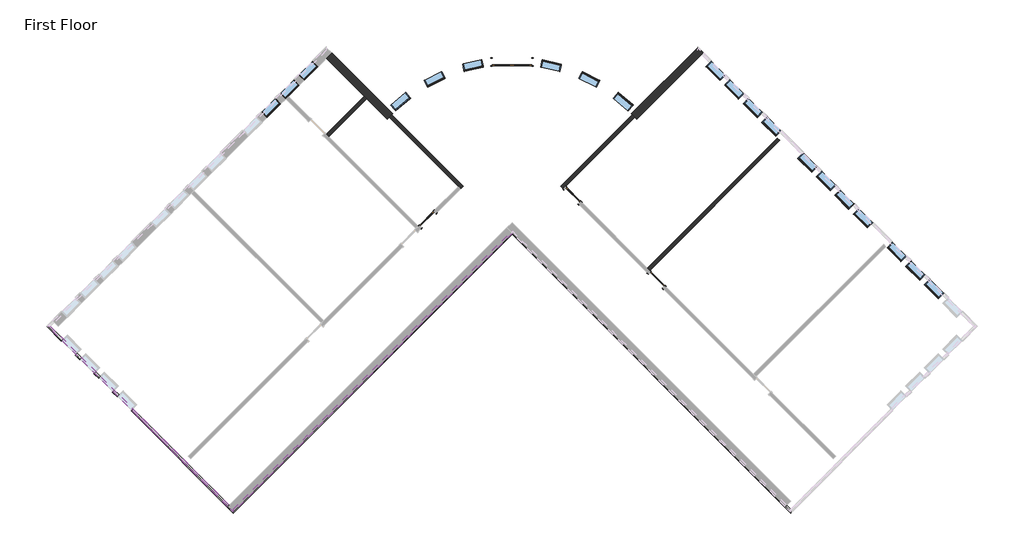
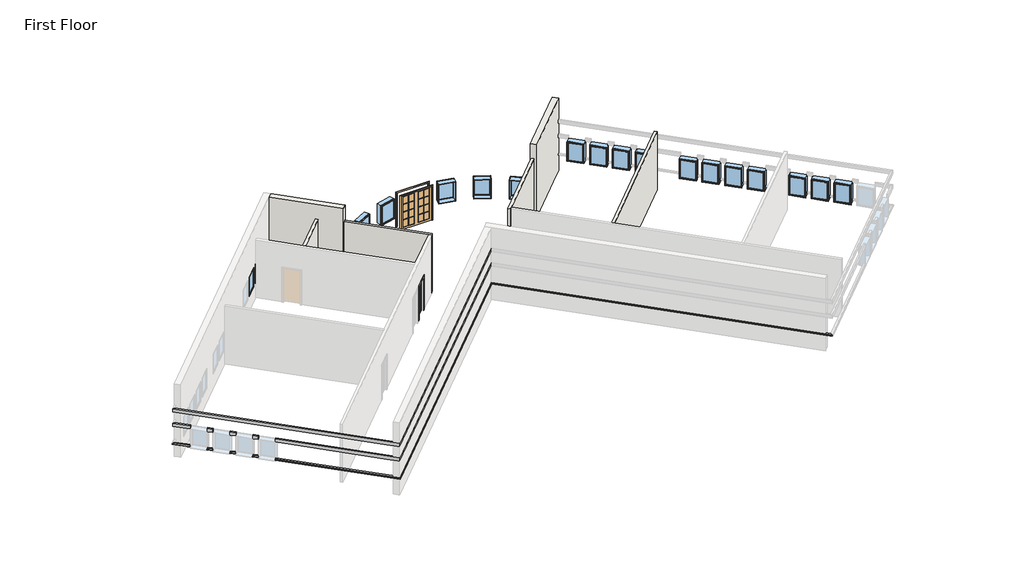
# One storey, part 2 of 3: 20 windows, 7 proxies, 6 walls, 4 doors.
"""IFC4 building model written with IfcOpenShell, lengths in millimetres."""

from ifc_helpers import new_model, si_unit, frame, origin, origin_with_axes, place, context, project, spatial, polyline, circle_curve, outline, extrude, faceted_brep, transform, mapped, element, save
from ifc_brep_helpers import plane_surface, cylinder_surface, revolved_surface, advanced_brep
from components import door_0a477ef8, door_5f5b55da, window_15c49d37, window_0e2fc6ce

model = new_model("IFC4")

# Units and contexts
model_context = context("Model", 3, world=origin())
ifc_project = project(units=[si_unit("LENGTHUNIT", "METRE", prefix="MILLI")], contexts=[model_context])

# Site, building, storey
site = spatial("IfcSite", under=ifc_project)
building = spatial("IfcBuilding", under=site)
storey = spatial("IfcBuildingStorey", under=building, Name="First Floor", Elevation=0.0)

# Proxies
placement = place(None, origin())
element("IfcBuildingElementProxy", 1, Name="Wall Sweeps", at=placement, inside=storey, context=model_context, shape_type="Brep", body=[
    faceted_brep([(10063.54045, -9848.8216726, 1085.85), (10063.54045, -9979.0353863, 1085.85), (10063.54045, -10028.426795, 1041.4), (10063.54045, -10028.426795, 1016.0), (10063.54045, -9848.8216726, 1016.0), (-2868.0283643, 3082.7471418, 1085.85), (-2868.0283643, 3082.7471418, 1016.0), (-2868.0283643, 2903.1420194, 1016.0), (-2868.0283643, 2903.1420194, 1041.4), (-2868.0283643, 2952.533428, 1085.85)], [[[0, 1, 2, 3, 4]], [[5, 6, 7, 8, 9]], [[1, 0, 5, 9]], [[2, 1, 9, 8]], [[3, 2, 8, 7]], [[4, 3, 7, 6]], [[0, 4, 6, 5]]]),
])
element("IfcBuildingElementProxy", 2, Name="Wall Sweeps", at=placement, inside=storey, context=model_context, shape_type="Brep", body=[
    faceted_brep([(-2868.0283643, 3082.7471418, 1085.85), (-2868.0283643, 2952.533428, 1085.85), (-2868.0283643, 2903.1420194, 1041.4), (-2868.0283643, 2903.1420194, 1016.0), (-2868.0283643, 3082.7471418, 1016.0), (-15799.5971786, -9848.8216726, 1085.85), (-15799.5971786, -9848.8216726, 1016.0), (-15799.5971786, -10028.426795, 1016.0), (-15799.5971786, -10028.426795, 1041.4), (-15799.5971786, -9979.0353863, 1085.85)], [[[0, 1, 2, 3, 4]], [[5, 6, 7, 8, 9]], [[1, 0, 5, 9]], [[2, 1, 9, 8]], [[3, 2, 8, 7]], [[4, 3, 7, 6]], [[0, 4, 6, 5]]]),
])
element("IfcBuildingElementProxy", 3, Name="Wall Sweeps", at=placement, inside=storey, context=model_context, shape_type="SweptSolid", body=[
    extrude(outline(polyline([(-2868.0283643, 3082.7471418), (-2868.0283643, 2952.533428), (-15799.5971786, -9979.0353863), (-15799.5971786, -9848.8216726), (-2868.0283643, 3082.7471418)])), frame((0.0, 0.0, 2133.6), z_axis=(0.0, 0.0, 1.0), x_axis=(1.0, 0.0, 0.0)), (0.0, 0.0, 1.0), 203.2),
])
element("IfcBuildingElementProxy", 4, Name="Wall Sweeps", at=placement, inside=storey, context=model_context, shape_type="SweptSolid", body=[
    extrude(outline(polyline([(-2868.0283643, 3082.7471418), (-2868.0283643, 2952.533428), (-15799.5971786, -9979.0353863), (-15799.5971786, -9848.8216726), (-2868.0283643, 3082.7471418)])), frame((0.0, 0.0, 3048.0), z_axis=(0.0, 0.0, 1.0), x_axis=(1.0, 0.0, 0.0)), (0.0, 0.0, 1.0), 203.2),
])
element("IfcBuildingElementProxy", 5, Name="Wall Sweeps", at=placement, inside=storey, context=model_context, shape_type="Brep", body=[
    faceted_brep([(-15799.5971786, -9848.8216726, 1085.85), (-15799.5971786, -9979.0353863, 1085.85), (-15799.5971786, -10028.426795, 1041.4), (-15799.5971786, -10028.426795, 1016.0), (-15799.5971786, -9848.8216726, 1016.0), (-20459.2275735, -5189.1912777, 1085.85), (-20459.2275735, -5189.1912777, 1016.0), (-20524.3344303, -5254.2981346, 1016.0), (-20549.0301347, -5278.993839, 1016.0), (-20549.0301347, -5278.993839, 1041.4), (-20524.3344303, -5254.2981346, 1085.85)], [[[0, 1, 2, 3, 4]], [[5, 6, 7, 8, 9, 10]], [[1, 0, 5, 10]], [[2, 1, 10, 9]], [[3, 2, 9, 8]], [[4, 3, 8, 7, 6]], [[0, 4, 6, 5]]]),
    faceted_brep([(-21105.8060142, -4542.612837, 1085.85), (-21170.9128711, -4607.7196939, 1085.85), (-21195.6085754, -4632.4153982, 1041.4), (-21195.6085754, -4632.4153982, 1016.0), (-21170.9128711, -4607.7196939, 1016.0), (-21105.8060142, -4542.612837, 1016.0), (-21321.3321611, -4327.0866901, 1085.85), (-21321.3321611, -4327.0866901, 1016.0), (-21386.439018, -4392.193547, 1016.0), (-21411.1347223, -4416.8892513, 1016.0), (-21411.1347223, -4416.8892513, 1041.4), (-21386.439018, -4392.193547, 1085.85)], [[[0, 1, 2, 3, 4, 5]], [[6, 7, 8, 9, 10, 11]], [[1, 0, 6, 11]], [[2, 1, 11, 10]], [[3, 2, 10, 9]], [[5, 4, 3, 9, 8, 7]], [[0, 5, 7, 6]]]),
    faceted_brep([(-21967.9106018, -3680.5082494, 1085.85), (-22033.0174587, -3745.6151063, 1085.85), (-22057.713163, -3770.3108106, 1041.4), (-22057.713163, -3770.3108106, 1016.0), (-22033.0174587, -3745.6151063, 1016.0), (-21967.9106018, -3680.5082494, 1016.0), (-22183.4367487, -3464.9821025, 1085.85), (-22183.4367487, -3464.9821025, 1016.0), (-22248.5436056, -3530.0889594, 1016.0), (-22273.2393099, -3554.7846637, 1016.0), (-22273.2393099, -3554.7846637, 1041.4), (-22248.5436056, -3530.0889594, 1085.85)], [[[0, 1, 2, 3, 4, 5]], [[6, 7, 8, 9, 10, 11]], [[1, 0, 6, 11]], [[2, 1, 11, 10]], [[3, 2, 10, 9]], [[5, 4, 3, 9, 8, 7]], [[0, 5, 7, 6]]]),
    faceted_brep([(-22830.0151894, -2818.4036618, 1085.85), (-22895.1220463, -2883.5105187, 1085.85), (-22919.8177506, -2908.206223, 1041.4), (-22919.8177506, -2908.206223, 1016.0), (-22895.1220463, -2883.5105187, 1016.0), (-22830.0151894, -2818.4036618, 1016.0), (-23045.5413363, -2602.8775149, 1085.85), (-23045.5413363, -2602.8775149, 1016.0), (-23110.6481932, -2667.9843718, 1016.0), (-23135.3438975, -2692.6800761, 1016.0), (-23135.3438975, -2692.6800761, 1041.4), (-23110.6481932, -2667.9843718, 1085.85)], [[[0, 1, 2, 3, 4, 5]], [[6, 7, 8, 9, 10, 11]], [[1, 0, 6, 11]], [[2, 1, 11, 10]], [[3, 2, 10, 9]], [[5, 4, 3, 9, 8, 7]], [[0, 5, 7, 6]]]),
    faceted_brep([(-23692.119777, -1956.2990742, 1085.85), (-23757.2266339, -2021.405931, 1085.85), (-23781.9223383, -2046.1016354, 1041.4), (-23781.9223383, -2046.1016354, 1016.0), (-23757.2266339, -2021.405931, 1016.0), (-23692.119777, -1956.2990742, 1016.0), (-24290.4293411, -1357.9895101, 1085.85), (-24290.4293411, -1357.9895101, 1016.0), (-24470.0344635, -1357.9895101, 1016.0), (-24470.0344635, -1357.9895101, 1041.4), (-24420.6430549, -1357.9895101, 1085.85)], [[[0, 1, 2, 3, 4, 5]], [[6, 7, 8, 9, 10]], [[1, 0, 6, 10]], [[2, 1, 10, 9]], [[3, 2, 9, 8]], [[5, 4, 3, 8, 7]], [[0, 5, 7, 6]]]),
])
element("IfcBuildingElementProxy", 6, Name="Wall Sweeps", at=placement, inside=storey, context=model_context, shape_type="Brep", body=[
    faceted_brep([(-15799.5971786, -9979.0353863, 2336.8), (-15799.5971786, -9979.0353863, 2133.6), (-15799.5971786, -9848.8216726, 2133.6), (-15799.5971786, -9848.8216726, 2336.8), (-20524.3344303, -5254.2981346, 2336.8), (-20459.2275735, -5189.1912777, 2336.8), (-20459.2275735, -5189.1912777, 2133.6), (-20524.3344303, -5254.2981346, 2133.6), (-16048.799286, -9729.833279, 2336.8), (-16048.799286, -9729.833279, 2133.6)], [[[0, 1, 2, 3]], [[4, 5, 6, 7]], [[1, 0, 8, 4, 7, 9]], [[2, 1, 9, 7, 6]], [[3, 2, 6, 5]], [[0, 3, 5, 4, 8]]]),
    faceted_brep([(-21170.9128711, -4607.7196939, 2336.8), (-21170.9128711, -4607.7196939, 2133.6), (-21105.8060142, -4542.612837, 2133.6), (-21105.8060142, -4542.612837, 2336.8), (-21386.439018, -4392.193547, 2336.8), (-21321.3321611, -4327.0866901, 2336.8), (-21321.3321611, -4327.0866901, 2133.6), (-21386.439018, -4392.193547, 2133.6)], [[[0, 1, 2, 3]], [[4, 5, 6, 7]], [[1, 0, 4, 7]], [[2, 1, 7, 6]], [[3, 2, 6, 5]], [[0, 3, 5, 4]]]),
    faceted_brep([(-22033.0174587, -3745.6151063, 2336.8), (-22033.0174587, -3745.6151063, 2133.6), (-21967.9106018, -3680.5082494, 2133.6), (-21967.9106018, -3680.5082494, 2336.8), (-22248.5436056, -3530.0889594, 2336.8), (-22183.4367487, -3464.9821025, 2336.8), (-22183.4367487, -3464.9821025, 2133.6), (-22248.5436056, -3530.0889594, 2133.6)], [[[0, 1, 2, 3]], [[4, 5, 6, 7]], [[1, 0, 4, 7]], [[2, 1, 7, 6]], [[3, 2, 6, 5]], [[0, 3, 5, 4]]]),
    faceted_brep([(-22895.1220463, -2883.5105187, 2336.8), (-22895.1220463, -2883.5105187, 2133.6), (-22830.0151894, -2818.4036618, 2133.6), (-22830.0151894, -2818.4036618, 2336.8), (-23110.6481932, -2667.9843718, 2336.8), (-23045.5413363, -2602.8775149, 2336.8), (-23045.5413363, -2602.8775149, 2133.6), (-23110.6481932, -2667.9843718, 2133.6)], [[[0, 1, 2, 3]], [[4, 5, 6, 7]], [[1, 0, 4, 7]], [[2, 1, 7, 6]], [[3, 2, 6, 5]], [[0, 3, 5, 4]]]),
    faceted_brep([(-23757.2266339, -2021.405931, 2336.8), (-23757.2266339, -2021.405931, 2133.6), (-23692.119777, -1956.2990742, 2133.6), (-23692.119777, -1956.2990742, 2336.8), (-24420.6430549, -1357.9895101, 2336.8), (-24290.4293411, -1357.9895101, 2336.8), (-24290.4293411, -1357.9895101, 2133.6), (-24420.6430549, -1357.9895101, 2133.6)], [[[0, 1, 2, 3]], [[4, 5, 6, 7]], [[1, 0, 4, 7]], [[2, 1, 7, 6]], [[3, 2, 6, 5]], [[0, 3, 5, 4]]]),
])
element("IfcBuildingElementProxy", 7, Name="Wall Sweeps", at=placement, inside=storey, context=model_context, shape_type="Brep", body=[
    faceted_brep([(-15799.5971786, -9979.0353863, 3251.2), (-15799.5971786, -9979.0353863, 3048.0), (-15799.5971786, -9848.8216726, 3048.0), (-15799.5971786, -9848.8216726, 3251.2), (-24420.6430549, -1357.9895101, 3251.2), (-24290.4293411, -1357.9895101, 3251.2), (-24290.4293411, -1357.9895101, 3048.0), (-24420.6430549, -1357.9895101, 3048.0), (-16048.799286, -9729.833279, 3251.2), (-16048.799286, -9729.833279, 3048.0)], [[[0, 1, 2, 3]], [[4, 5, 6, 7]], [[1, 0, 8, 4, 7, 9]], [[2, 1, 9, 7, 6]], [[3, 2, 6, 5]], [[0, 3, 5, 4, 8]]]),
])

# Doors
door_shape = door_0a477ef8(model_context)
element("IfcDoor", 8, ObjectType="Double-Glass 2 : 72\" x 84\"", at=placement, inside=storey, context=model_context, shape_type="MappedRepresentation", body=[
    mapped(door_shape, transform((-2868.7603243, 10905.5717204, 0.0), x_axis=(-0.9999999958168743, -9.146721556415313e-05, 0.0), y_axis=(9.146721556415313e-05, -0.9999999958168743, 0.0), z_axis=(0.0, 0.0, 1.0))),
])
door_2_shape = door_5f5b55da(model_context)
element("IfcDoor", 9, ObjectType="Single-Glass 1 : 36\" x 84\"", at=placement, inside=storey, context=model_context, shape_type="MappedRepresentation", body=[
    mapped(door_2_shape, transform((-6781.1749691, 3599.1118687, 0.0), x_axis=(-0.7071067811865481, -0.7071067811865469, 0.0), y_axis=(0.7071067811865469, -0.7071067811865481, 0.0), z_axis=(0.0, 0.0, 1.0))),
])
element("IfcDoor", 10, ObjectType="Single-Glass 1 : 36\" x 84\"", at=placement, inside=storey, context=model_context, shape_type="MappedRepresentation", body=[
    mapped(door_2_shape, transform((-66.4240191, 4710.6541283, 0.0), x_axis=(-0.7071067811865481, 0.7071067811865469, 0.0), y_axis=(-0.7071067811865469, -0.7071067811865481, 0.0), z_axis=(0.0, 0.0, 1.0))),
])
element("IfcDoor", 11, ObjectType="Single-Glass 1 : 36\" x 84\"", at=placement, inside=storey, context=model_context, shape_type="MappedRepresentation", body=[
    mapped(door_2_shape, transform((3846.9581502, 797.271959, 0.0), x_axis=(-0.7071067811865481, 0.7071067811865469, 0.0), y_axis=(-0.7071067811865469, -0.7071067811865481, 0.0), z_axis=(0.0, 0.0, 1.0))),
])

# Walls
element("IfcWall", 12, ObjectType="Exterior - Split Face and CMU on Mtl. Stud", at=placement, inside=storey, context=model_context, shape_type="AdvancedBrep", body=[
    advanced_brep(
    [(2921.9555443, 8244.1131219, 0.0), (5753.0175119, 11075.1750895, 0.0), (6002.2196193, 11324.3771969, 0.0), (6002.2196193, 11324.3771969, 1016.0), (5937.1127624, 11259.27034, 1016.0), (5937.1127624, 11259.27034, 1085.85), (6002.2196193, 11324.3771969, 1085.85), (6002.2196193, 11324.3771969, 2133.6), (5937.1127624, 11259.27034, 2133.6), (5937.1127624, 11259.27034, 2336.8), (6002.2196193, 11324.3771969, 2336.8), (6002.2196193, 11324.3771969, 3048.0), (5937.1127624, 11259.27034, 3048.0), (5937.1127624, 11259.27034, 3251.2), (6002.2196193, 11324.3771969, 3251.2), (6002.2196193, 11324.3771969, 4572.0), (5753.0175119, 11075.1750895, 4572.0), (2921.9555443, 8244.1131219, 4572.0), (2677.2250436, 8497.7868359, 4572.0), (2926.4294954, 8746.9912878, 4572.0), (5753.0175119, 11573.5793042, 4572.0), (5753.0175119, 11573.5793042, 3251.2), (2926.4294954, 8746.9912878, 3251.2), (2861.3220456, 8681.8838379, 3251.2), (2861.3220456, 8681.8838379, 3048.0), (2926.4294954, 8746.9912878, 3048.0), (5753.0175119, 11573.5793042, 3048.0), (5753.0175119, 11573.5793042, 2336.8), (2926.4294954, 8746.9912878, 2336.8), (2861.3220456, 8681.8838379, 2336.8), (2861.3220456, 8681.8838379, 2133.6), (2926.4294954, 8746.9912878, 2133.6), (5753.0175119, 11573.5793042, 2133.6), (5753.0175119, 11573.5793042, 1085.85), (2926.4294954, 8746.9912878, 1085.85), (2861.3220456, 8681.8838379, 1085.85), (2861.3220456, 8681.8838379, 1016.0), (2926.4294954, 8746.9912878, 1016.0), (5753.0175119, 11573.5793042, 1016.0), (5753.0175119, 11573.5793042, 0.0), (2926.4294954, 8746.9912878, 0.0), (2677.2250436, 8497.7868359, 0.0), (5818.1243688, 11508.4724474, 0.0), (2712.9544089, 8462.1452813, 0.0), (2742.2400511, 8432.5881297, 0.0), (2821.6590066, 8350.8336041, 0.0), (5753.0175119, 11443.3655905, 1085.85), (2926.3399919, 8616.6880705, 1085.85), (2926.3399919, 8616.6880705, 1016.0), (5753.0175119, 11443.3655905, 1016.0), (2926.3399919, 8616.6880705, 2133.6), (5753.0175119, 11443.3655905, 2133.6), (2926.3399919, 8616.6880705, 2336.8), (5753.0175119, 11443.3655905, 2336.8), (2926.3399919, 8616.6880705, 3048.0), (5753.0175119, 11443.3655905, 3048.0), (2926.3399919, 8616.6880705, 3251.2), (5753.0175119, 11443.3655905, 3251.2)],
    [
        (0, 1),
        (1, 2),
        (2, 3),
        (3, 4),
        (4, 5),
        (5, 6),
        (6, 7),
        (7, 8),
        (8, 9),
        (9, 10),
        (10, 11),
        (11, 12),
        (12, 13),
        (13, 14),
        (14, 15),
        (15, 16),
        (16, 17),
        (17, 0),
        (18, 19),
        (19, 20),
        (20, 21),
        (21, 22),
        (22, 23),
        (23, 24),
        (24, 25),
        (25, 26),
        (26, 27),
        (27, 28),
        (28, 29),
        (29, 30),
        (30, 31),
        (31, 32),
        (32, 33),
        (33, 34),
        (34, 35),
        (35, 36),
        (36, 37),
        (37, 38),
        (38, 39),
        (39, 40),
        (40, 41),
        (41, 18),
        (15, 20),
        (18, 17, circle_curve(frame((-2868.0283643, 2903.1420194, 4572.0), z_axis=(0.0, 0.0, -1.0), x_axis=(1.0, 0.0, 0.0)), 7877.175)),
        (14, 21),
        (2, 42),
        (42, 39),
        (38, 3),
        (6, 33),
        (32, 7),
        (10, 27),
        (26, 11),
        (41, 43, circle_curve(frame((-2868.0283643, 2903.1420194, 0.0), z_axis=(0.0, 0.0, -1.0), x_axis=(1.0, 0.0, 0.0)), 7877.175)),
        (43, 44, circle_curve(frame((-2868.0283643, 2903.1420194, 0.0), z_axis=(0.0, 0.0, -1.0), x_axis=(1.0, 0.0, 0.0)), 7877.175)),
        (44, 45, circle_curve(frame((-2868.0283643, 2903.1420194, 0.0), z_axis=(0.0, 0.0, -1.0), x_axis=(1.0, 0.0, 0.0)), 7877.175)),
        (45, 0, circle_curve(frame((-2868.0283643, 2903.1420194, 0.0), z_axis=(0.0, 0.0, -1.0), x_axis=(1.0, 0.0, 0.0)), 7877.175)),
        (44, 42),
        (46, 47),
        (47, 35, circle_curve(frame((-2868.0283643, 2903.1420194, 1085.85), z_axis=(0.0, 0.0, 1.0), x_axis=(0.6844196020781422, 0.7290883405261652, 0.0)), 8137.525)),
        (5, 46),
        (48, 49),
        (49, 4),
        (36, 48, circle_curve(frame((-2868.0283643, 2903.1420194, 1016.0), z_axis=(0.0, 0.0, -1.0), x_axis=(0.6844196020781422, 0.7290883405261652, 0.0)), 8137.525)),
        (47, 48),
        (46, 49),
        (50, 51),
        (51, 8),
        (30, 50, circle_curve(frame((-2868.0283643, 2903.1420194, 2133.6), z_axis=(0.0, 0.0, -1.0), x_axis=(0.6844196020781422, 0.7290883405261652, 0.0)), 8137.525)),
        (52, 50),
        (29, 52, circle_curve(frame((-2868.0283643, 2903.1420194, 2336.8), z_axis=(0.0, 0.0, -1.0), x_axis=(0.6844196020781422, 0.7290883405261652, 0.0)), 8137.525)),
        (53, 52),
        (9, 53),
        (53, 51),
        (54, 55),
        (55, 12),
        (24, 54, circle_curve(frame((-2868.0283643, 2903.1420194, 3048.0), z_axis=(0.0, 0.0, -1.0), x_axis=(-0.7040995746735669, 0.7101012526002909, 0.0)), 8137.525)),
        (56, 54),
        (23, 56, circle_curve(frame((-2868.0283643, 2903.1420194, 3251.2), z_axis=(0.0, 0.0, -1.0), x_axis=(-0.7040995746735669, 0.7101012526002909, 0.0)), 8137.525)),
        (57, 56),
        (13, 57),
        (57, 55),
    ],
    [
        plane_surface(frame((2984.8535626, 8307.0111402, 0.0), z_axis=(0.707106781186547, -0.7071067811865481, 0.0), x_axis=(0.7071067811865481, 0.707106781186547, 0.0))),
        plane_surface(frame((2735.6514552, 8556.2132476, 0.0), z_axis=(-0.707106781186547, 0.7071067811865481, 0.0), x_axis=(-0.7071067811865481, -0.707106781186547, 0.0))),
        plane_surface(frame((5877.6185656, 11199.7761432, 4572.0), z_axis=(0.0, 0.0, 1.0), x_axis=(-0.707106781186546, 0.7071067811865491, 0.0))),
        plane_surface(frame((5753.0175119, 11573.5793042, 0.0), z_axis=(0.7071067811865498, 0.7071067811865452, 0.0), x_axis=(-0.7071067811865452, 0.7071067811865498, 0.0))),
        revolved_surface(polyline([(5009.146635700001, 2903.1420194, 0.0), (5009.146635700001, 2903.1420194, 4572.0)]), (-2868.0283643, 2903.1420194, 0.0), (0.0, 0.0, -1.0)),
        plane_surface(frame((3050.2065213, 8372.3640989, 0.0), z_axis=(0.0, 0.0, -1.0000000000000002), x_axis=(-0.7071067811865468, 0.7071067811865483, 0.0))),
        plane_surface(frame((0.0, 0.0, 0.0), z_axis=(0.0, 0.0, -1.0), x_axis=(1.0, 0.0, 0.0))),
        plane_surface(frame((-2868.0283643, 2903.1420194, 1085.85), z_axis=(0.0, 0.0, -1.0), x_axis=(0.6844196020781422, 0.7290883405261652, 0.0))),
        plane_surface(frame((-2868.0283643, 2903.1420194, 1016.0), z_axis=(0.0, 0.0, 1.0), x_axis=(0.6844196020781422, 0.7290883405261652, 0.0))),
        cylinder_surface(frame((-2868.0283643, 2903.1420194, 1016.0), z_axis=(0.0, 0.0, -1.0), x_axis=(0.6844196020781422, 0.7290883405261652, 0.0)), 8137.525),
        plane_surface(frame((2926.3399919, 8616.6880705, 1016.0), z_axis=(-0.7071067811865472, 0.7071067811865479, 0.0), x_axis=(0.7071067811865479, 0.7071067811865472, 0.0))),
        plane_surface(frame((5753.0175119, 11443.3655905, 1016.0), z_axis=(0.7071067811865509, 0.7071067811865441, 0.0), x_axis=(0.7071067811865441, -0.7071067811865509, 0.0))),
        plane_surface(frame((-2868.0283643, 2903.1420194, 2133.6), z_axis=(0.0, 0.0, 1.0), x_axis=(0.6844196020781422, 0.7290883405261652, 0.0))),
        cylinder_surface(frame((-2868.0283643, 2903.1420194, 2133.6), z_axis=(0.0, 0.0, -1.0), x_axis=(0.6844196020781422, 0.7290883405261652, 0.0)), 8137.525),
        plane_surface(frame((-2868.0283643, 2903.1420194, 2336.8), z_axis=(0.0, 0.0, -1.0), x_axis=(0.6844196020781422, 0.7290883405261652, 0.0))),
        plane_surface(frame((2926.3399919, 8616.6880705, 2133.6), z_axis=(-0.707106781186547, 0.707106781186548, 0.0), x_axis=(0.707106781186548, 0.707106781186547, 0.0))),
        plane_surface(frame((5753.0175119, 11443.3655905, 2133.6), z_axis=(0.7071067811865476, 0.7071067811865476, 0.0), x_axis=(0.7071067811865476, -0.7071067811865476, 0.0))),
        plane_surface(frame((-2868.0283643, 2903.1420194, 3048.0), z_axis=(0.0, 0.0, 1.0), x_axis=(-0.7040995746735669, 0.7101012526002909, 0.0))),
        cylinder_surface(frame((-2868.0283643, 2903.1420194, 3048.0), z_axis=(0.0, 0.0, -1.0), x_axis=(-0.7040995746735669, 0.7101012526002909, 0.0)), 8137.525),
        plane_surface(frame((-2868.0283643, 2903.1420194, 3251.2), z_axis=(0.0, 0.0, -1.0), x_axis=(-0.7040995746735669, 0.7101012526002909, 0.0))),
        plane_surface(frame((2926.3399919, 8616.6880705, 3048.0), z_axis=(-0.7071067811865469, 0.7071067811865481, 0.0), x_axis=(0.7071067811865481, 0.7071067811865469, 0.0))),
        plane_surface(frame((5753.0175119, 11443.3655905, 3048.0), z_axis=(0.7071067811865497, 0.7071067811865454, 0.0), x_axis=(0.7071067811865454, -0.7071067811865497, 0.0))),
    ],
    [
        (0, [[1, 2, 3, 4, 5, 6, 7, 8, 9, 10, 11, 12, 13, 14, 15, 16, 17, 18]]),
        (1, [[19, 20, 21, 22, 23, 24, 25, 26, 27, 28, 29, 30, 31, 32, 33, 34, 35, 36, 37, 38, 39, 40, 41, 42]]),
        (2, [[-17, -16, 43, -20, -19, 44]]),
        (3, [[-43, -15, 45, -21]]),
        (3, [[46, 47, -39, 48, -3]]),
        (3, [[49, -33, 50, -7]]),
        (3, [[51, -27, 52, -11]]),
        (4, [[-44, -42, 53, 54, 55, 56, -18]]),
        (5, [[-2, -1, -56, -55, 57, -46]]),
        (6, [[-54, -53, -41, -40, -47, -57]]),
        (7, [[58, 59, -35, -34, -49, -6, 60]]),
        (8, [[61, 62, -4, -48, -38, -37, 63]]),
        (9, [[64, -63, -36, -59]]),
        (10, [[-58, 65, -61, -64]]),
        (11, [[-65, -60, -5, -62]]),
        (12, [[66, 67, -8, -50, -32, -31, 68]]),
        (13, [[69, -68, -30, 70]]),
        (14, [[71, -70, -29, -28, -51, -10, 72]]),
        (15, [[-66, -69, -71, 73]]),
        (16, [[-73, -72, -9, -67]]),
        (17, [[74, 75, -12, -52, -26, -25, 76]]),
        (18, [[77, -76, -24, 78]]),
        (19, [[79, -78, -23, -22, -45, -14, 80]]),
        (20, [[-74, -77, -79, 81]]),
        (21, [[-81, -80, -13, -75]]),
    ],
),
])
element("IfcWall", 13, ObjectType="Exterior - Split Face and CMU on Mtl. Stud", at=placement, inside=storey, context=model_context, shape_type="AdvancedBrep", body=[
    advanced_brep(
    [(-11489.0742405, 11075.1750895, 0.0), (-9728.9440408, 9315.0448898, 0.0), (-9618.9359033, 9205.0367523, 0.0), (-8658.0122729, 8244.1131219, 0.0), (-8658.0122729, 8244.1131219, 4572.0), (-11489.0742405, 11075.1750895, 4572.0), (-11239.8721332, 11324.3771969, 4572.0), (-8662.486224, 8746.9912878, 4572.0), (-8413.2817722, 8497.7868359, 4572.0), (-8413.2817722, 8497.7868359, 0.0), (-8662.486224, 8746.9912878, 0.0), (-11239.8721332, 11324.3771969, 0.0), (-11239.8721332, 11324.3771969, 1016.0), (-8662.486224, 8746.9912878, 1016.0), (-8597.3787742, 8681.8838379, 1016.0), (-8597.3787742, 8681.8838379, 1085.85), (-8662.486224, 8746.9912878, 1085.85), (-11239.8721332, 11324.3771969, 1085.85), (-11239.8721332, 11324.3771969, 2133.6), (-8662.486224, 8746.9912878, 2133.6), (-8597.3787742, 8681.8838379, 2133.6), (-8597.3787742, 8681.8838379, 2336.8), (-8662.486224, 8746.9912878, 2336.8), (-11239.8721332, 11324.3771969, 2336.8), (-11239.8721332, 11324.3771969, 3048.0), (-8662.486224, 8746.9912878, 3048.0), (-8597.3787742, 8681.8838379, 3048.0), (-8597.3787742, 8681.8838379, 3251.2), (-8662.486224, 8746.9912878, 3251.2), (-11239.8721332, 11324.3771969, 3251.2), (-8478.2967797, 8432.5881297, 0.0), (-11304.9789901, 11259.27034, 3251.2), (-11304.9789901, 11259.27034, 3048.0), (-11304.9789901, 11259.27034, 2336.8), (-11304.9789901, 11259.27034, 2133.6), (-11304.9789901, 11259.27034, 1085.85), (-11304.9789901, 11259.27034, 1016.0), (-11304.9789901, 11259.27034, 0.0), (-8662.3967205, 8616.6880705, 1085.85), (-8662.3967205, 8616.6880705, 1016.0), (-8662.3967205, 8616.6880705, 2336.8), (-8662.3967205, 8616.6880705, 2133.6), (-8662.3967205, 8616.6880705, 3251.2), (-8662.3967205, 8616.6880705, 3048.0)],
    [
        (0, 1),
        (1, 2),
        (2, 3),
        (3, 4),
        (4, 5),
        (5, 0),
        (6, 7),
        (7, 8),
        (8, 9),
        (9, 10),
        (10, 11),
        (11, 12),
        (12, 13),
        (13, 14),
        (14, 15),
        (15, 16),
        (16, 17),
        (17, 18),
        (18, 19),
        (19, 20),
        (20, 21),
        (21, 22),
        (22, 23),
        (23, 24),
        (24, 25),
        (25, 26),
        (26, 27),
        (27, 28),
        (28, 29),
        (29, 6),
        (4, 8, circle_curve(frame((-2868.0283643, 2903.1420194, 4572.0), z_axis=(0.0, 0.0, -1.0), x_axis=(1.0, 0.0, 0.0)), 7877.175)),
        (6, 5),
        (3, 30, circle_curve(frame((-2868.0283643, 2903.1420194, 0.0), z_axis=(0.0, 0.0, -1.0), x_axis=(1.0, 0.0, 0.0)), 7877.175)),
        (30, 9, circle_curve(frame((-2868.0283643, 2903.1420194, 0.0), z_axis=(0.0, 0.0, -1.0), x_axis=(1.0, 0.0, 0.0)), 7877.175)),
        (29, 31),
        (31, 32),
        (32, 24),
        (23, 33),
        (33, 34),
        (34, 18),
        (17, 35),
        (35, 36),
        (36, 12),
        (11, 37),
        (37, 0),
        (37, 30),
        (38, 39),
        (39, 36),
        (35, 38),
        (15, 38, circle_curve(frame((-2868.0283643, 2903.1420194, 1085.85), z_axis=(0.0, 0.0, 1.0), x_axis=(-0.7040995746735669, 0.7101012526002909, 0.0)), 8137.525)),
        (39, 14, circle_curve(frame((-2868.0283643, 2903.1420194, 1016.0), z_axis=(0.0, 0.0, -1.0), x_axis=(-0.7040995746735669, 0.7101012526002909, 0.0)), 8137.525)),
        (40, 41),
        (41, 34),
        (33, 40),
        (41, 20, circle_curve(frame((-2868.0283643, 2903.1420194, 2133.6), z_axis=(0.0, 0.0, -1.0), x_axis=(-0.7120553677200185, 0.70212331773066, 0.0)), 8137.525)),
        (40, 21, circle_curve(frame((-2868.0283643, 2903.1420194, 2336.8), z_axis=(0.0, 0.0, -1.0), x_axis=(-0.7120553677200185, 0.70212331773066, 0.0)), 8137.525)),
        (42, 43),
        (43, 32),
        (31, 42),
        (43, 26, circle_curve(frame((-2868.0283643, 2903.1420194, 3048.0), z_axis=(0.0, 0.0, -1.0), x_axis=(-0.7120553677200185, 0.70212331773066, 0.0)), 8137.525)),
        (42, 27, circle_curve(frame((-2868.0283643, 2903.1420194, 3251.2), z_axis=(0.0, 0.0, -1.0), x_axis=(-0.7120553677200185, 0.70212331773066, 0.0)), 8137.525)),
    ],
    [
        plane_surface(frame((-11738.2763479, 11324.3771969, 0.0), z_axis=(-0.7071067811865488, -0.7071067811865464, 0.0), x_axis=(0.7071067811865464, -0.7071067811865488, 0.0))),
        plane_surface(frame((-11489.0742405, 11573.5793042, 0.0), z_axis=(0.7071067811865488, 0.7071067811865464, 0.0), x_axis=(-0.7071067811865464, 0.7071067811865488, 0.0))),
        plane_surface(frame((-8786.2632499, 8372.3640989, 4572.0), z_axis=(0.0, 0.0, 1.0), x_axis=(0.7071067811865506, 0.7071067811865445, 0.0))),
        revolved_surface(polyline([(5009.146635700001, 2903.1420194, 0.0), (5009.146635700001, 2903.1420194, 4572.0)]), (-2868.0283643, 2903.1420194, 0.0), (0.0, 0.0, -1.0)),
        plane_surface(frame((-24171.4409475, -1607.1916175, 0.0), z_axis=(-0.7071067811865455, 0.7071067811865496, 0.0), x_axis=(0.7071067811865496, 0.7071067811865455, 0.0))),
        plane_surface(frame((-11613.6752942, 11199.7761432, 0.0), z_axis=(0.0, 0.0, -1.0000000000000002), x_axis=(0.7071067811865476, 0.7071067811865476, 0.0))),
        plane_surface(frame((0.0, 0.0, 0.0), z_axis=(0.0, 0.0, -1.0), x_axis=(1.0, 0.0, 0.0))),
        plane_surface(frame((-11489.0742405, 11443.3655905, 1016.0), z_axis=(0.7071067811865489, 0.7071067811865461, 0.0), x_axis=(0.7071067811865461, -0.7071067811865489, 0.0))),
        plane_surface(frame((-2868.0283643, 2903.1420194, 1085.85), z_axis=(0.0, 0.0, -1.0), x_axis=(-0.7040995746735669, 0.7101012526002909, 0.0))),
        plane_surface(frame((-2868.0283643, 2903.1420194, 1016.0), z_axis=(0.0, 0.0, 1.0), x_axis=(-0.7040995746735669, 0.7101012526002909, 0.0))),
        cylinder_surface(frame((-2868.0283643, 2903.1420194, 1016.0), z_axis=(0.0, 0.0, -1.0), x_axis=(-0.7040995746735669, 0.7101012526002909, 0.0)), 8137.525),
        plane_surface(frame((-11489.0742405, 11443.3655905, 2133.6), z_axis=(0.7071067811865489, 0.7071067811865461, 0.0), x_axis=(0.7071067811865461, -0.7071067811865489, 0.0))),
        plane_surface(frame((-2868.0283643, 2903.1420194, 2133.6), z_axis=(0.0, 0.0, 1.0), x_axis=(-0.7120553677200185, 0.70212331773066, 0.0))),
        cylinder_surface(frame((-2868.0283643, 2903.1420194, 2133.6), z_axis=(0.0, 0.0, -1.0), x_axis=(-0.7120553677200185, 0.70212331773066, 0.0)), 8137.525),
        plane_surface(frame((-2868.0283643, 2903.1420194, 2336.8), z_axis=(0.0, 0.0, -1.0), x_axis=(-0.7120553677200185, 0.70212331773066, 0.0))),
        plane_surface(frame((-11489.0742405, 11443.3655905, 3048.0), z_axis=(0.7071067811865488, 0.7071067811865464, 0.0), x_axis=(0.7071067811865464, -0.7071067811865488, 0.0))),
        plane_surface(frame((-2868.0283643, 2903.1420194, 3048.0), z_axis=(0.0, 0.0, 1.0), x_axis=(-0.7120553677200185, 0.70212331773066, 0.0))),
        cylinder_surface(frame((-2868.0283643, 2903.1420194, 3048.0), z_axis=(0.0, 0.0, -1.0), x_axis=(-0.7120553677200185, 0.70212331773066, 0.0)), 8137.525),
        plane_surface(frame((-2868.0283643, 2903.1420194, 3251.2), z_axis=(0.0, 0.0, -1.0), x_axis=(-0.7120553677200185, 0.70212331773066, 0.0))),
    ],
    [
        (0, [[1, 2, 3, 4, 5, 6]]),
        (1, [[7, 8, 9, 10, 11, 12, 13, 14, 15, 16, 17, 18, 19, 20, 21, 22, 23, 24, 25, 26, 27, 28, 29, 30]]),
        (2, [[-5, 31, -8, -7, 32]]),
        (3, [[-4, 33, 34, -9, -31]]),
        (4, [[-6, -32, -30, 35, 36, 37, -24, 38, 39, 40, -18, 41, 42, 43, -12, 44, 45]]),
        (5, [[-3, -2, -1, -45, 46, -33]]),
        (6, [[-44, -11, -10, -34, -46]]),
        (7, [[47, 48, -42, 49]]),
        (8, [[50, -49, -41, -17, -16]]),
        (9, [[-48, 51, -14, -13, -43]]),
        (10, [[-47, -50, -15, -51]]),
        (11, [[52, 53, -39, 54]]),
        (12, [[-53, 55, -20, -19, -40]]),
        (13, [[-52, 56, -21, -55]]),
        (14, [[-56, -54, -38, -23, -22]]),
        (15, [[57, 58, -36, 59]]),
        (16, [[-58, 60, -26, -25, -37]]),
        (17, [[-57, 61, -27, -60]]),
        (18, [[-61, -59, -35, -29, -28]]),
    ],
),
])
element("IfcWall", 14, ObjectType="Interior - 6 1/8\" Partition (2-hr)", at=placement, inside=storey, context=model_context, shape_type="AdvancedBrep", body=[
    advanced_brep(
    [(-5128.5722782, 5141.7064221, 0.0), (-8449.0111375, 8462.1452813, 0.0), (-8449.0111375, 8462.1452813, 3657.6), (-5128.5722782, 5141.7064221, 3657.6), (-5238.5804157, 5031.6982846, 0.0), (-5238.5804157, 5031.6982846, 3657.6), (-5348.5885532, 5141.7064221, 3657.6), (-8557.7157352, 8350.8336041, 3657.6), (-8557.7157352, 8350.8336041, 0.0), (-5348.5885532, 5141.7064221, 0.0)],
    [
        (0, 1),
        (1, 2),
        (2, 3),
        (3, 0),
        (4, 5),
        (5, 6),
        (6, 7),
        (7, 8),
        (8, 9),
        (9, 4),
        (0, 4),
        (8, 1, circle_curve(frame((-2868.0283643, 2903.1420194, 0.0), z_axis=(0.0, 0.0, -1.0), x_axis=(1.0, 0.0, 0.0)), 7877.175)),
        (2, 7, circle_curve(frame((-2868.0283643, 2903.1420194, 3657.6), z_axis=(0.0, 0.0, 1.0), x_axis=(1.0, 0.0, 0.0)), 7877.175)),
        (5, 3),
    ],
    [
        plane_surface(frame((-5183.576347, 5196.7104908, 0.0), z_axis=(0.7071067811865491, 0.7071067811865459, 0.0), x_axis=(-0.7071067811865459, 0.7071067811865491, 0.0))),
        plane_surface(frame((-5293.5844845, 5086.7023533, 0.0), z_axis=(-0.7071067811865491, -0.7071067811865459, 0.0), x_axis=(0.7071067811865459, -0.7071067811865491, 0.0))),
        plane_surface(frame((-5183.576347, 5196.7104908, 0.0), z_axis=(0.0, 0.0, -1.0), x_axis=(-0.707106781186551, -0.707106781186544, 0.0))),
        plane_surface(frame((-8573.2406241, 8586.374768, 3657.6), z_axis=(0.0, 0.0, 1.0), x_axis=(-0.707106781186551, -0.707106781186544, 0.0))),
        plane_surface(frame((-17899.854579, -7629.5758786, 0.0), z_axis=(0.7071067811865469, -0.7071067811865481, 0.0), x_axis=(0.7071067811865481, 0.7071067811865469, 0.0))),
        cylinder_surface(frame((-2868.0283643, 2903.1420194, 0.0), z_axis=(0.0, 0.0, -1.0), x_axis=(1.0, 0.0, 0.0)), 7877.175),
    ],
    [
        (0, [[1, 2, 3, 4]]),
        (1, [[5, 6, 7, 8, 9, 10]]),
        (2, [[-1, 11, -10, -9, 12]]),
        (3, [[-3, 13, -7, -6, 14]]),
        (4, [[-4, -14, -5, -11]]),
        (5, [[-2, -12, -8, -13]]),
    ],
),
])
element("IfcWall", 15, ObjectType="Interior - 6 1/8\" Partition (2-hr)", at=placement, inside=storey, context=model_context, shape_type="SweptSolid", body=[
    extrude(outline(polyline([(-11489.0742405, 7554.9146901), (-9728.9440408, 9315.0448898), (-9618.9359033, 9205.0367523), (-11379.066103, 7444.9065526), (-11489.0742405, 7554.9146901)])), origin_with_axes(), (0.0, 0.0, 1.0), 3657.6),
])
element("IfcWall", 16, ObjectType="Interior - 6 1/8\" Partition (2-hr)", at=placement, inside=storey, context=model_context, shape_type="AdvancedBrep", body=[
    advanced_brep(
    [(-497.4763129, 5031.6982846, 0.0), (-387.4681754, 5141.7064221, 0.0), (2821.6590066, 8350.8336041, 0.0), (2821.6590066, 8350.8336041, 3657.6), (-387.4681754, 5141.7064221, 3657.6), (-497.4763129, 5031.6982846, 3657.6), (-607.4844504, 5141.7064221, 0.0), (-607.4844504, 5141.7064221, 3657.6), (2712.9544089, 8462.1452813, 3657.6), (2712.9544089, 8462.1452813, 0.0)],
    [
        (0, 1),
        (1, 2),
        (2, 3),
        (3, 4),
        (4, 5),
        (5, 0),
        (6, 7),
        (7, 8),
        (8, 9),
        (9, 6),
        (0, 6),
        (9, 2, circle_curve(frame((-2868.0283643, 2903.1420194, 0.0), z_axis=(0.0, 0.0, -1.0), x_axis=(1.0, 0.0, 0.0)), 7877.175)),
        (3, 8, circle_curve(frame((-2868.0283643, 2903.1420194, 3657.6), z_axis=(0.0, 0.0, 1.0), x_axis=(1.0, 0.0, 0.0)), 7877.175)),
        (7, 5),
    ],
    [
        plane_surface(frame((-442.4722441, 5086.7023533, 0.0), z_axis=(0.7071067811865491, -0.7071067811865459, 0.0), x_axis=(0.7071067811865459, 0.7071067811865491, 0.0))),
        plane_surface(frame((-552.4803816, 5196.7104908, 0.0), z_axis=(-0.7071067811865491, 0.7071067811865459, 0.0), x_axis=(-0.7071067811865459, -0.7071067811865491, 0.0))),
        plane_surface(frame((-442.4722441, 5086.7023533, 0.0), z_axis=(0.0, 0.0, -1.0), x_axis=(-0.707106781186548, 0.7071067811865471, 0.0))),
        plane_surface(frame((2947.192033, 8476.3666305, 3657.6), z_axis=(0.0, 0.0, 1.0000000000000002), x_axis=(-0.7071067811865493, 0.7071067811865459, 0.0))),
        plane_surface(frame((12163.7978503, -7629.5758786, 0.0), z_axis=(-0.7071067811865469, -0.7071067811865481, 0.0), x_axis=(0.7071067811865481, -0.7071067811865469, 0.0))),
        cylinder_surface(frame((-2868.0283643, 2903.1420194, 0.0), z_axis=(0.0, 0.0, -1.0), x_axis=(1.0, 0.0, 0.0)), 7877.175),
    ],
    [
        (0, [[1, 2, 3, 4, 5, 6]]),
        (1, [[7, 8, 9, 10]]),
        (2, [[-2, -1, 11, -10, 12]]),
        (3, [[-5, -4, 13, -8, 14]]),
        (4, [[-6, -14, -7, -11]]),
        (5, [[-3, -12, -9, -13]]),
    ],
),
])
element("IfcWall", 17, ObjectType="Interior - 6 1/8\" Partition (2-hr)", at=placement, inside=storey, context=model_context, shape_type="SweptSolid", body=[
    extrude(outline(polyline([(3415.9058564, 1338.3323903), (9452.8830338, 7375.3095676), (9562.8911713, 7265.3014302), (3525.9139939, 1228.3242528), (3415.9058564, 1338.3323903)])), origin_with_axes(), (0.0, 0.0, 1.0), 3657.6),
])

# Windows
window_shape = window_15c49d37(model_context)
element("IfcWindow", 18, ObjectType="Fixed : 36\" x 48\"", at=placement, inside=storey, context=model_context, shape_type="MappedRepresentation", body=[
    mapped(window_shape, transform((-8066.2237793, 9037.6928325, 0.0), x_axis=(-0.7659856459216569, -0.6428576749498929, 0.0), y_axis=(0.6428576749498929, -0.7659856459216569, 0.0), z_axis=(0.0, 0.0, 1.0))),
])
element("IfcWindow", 19, ObjectType="Fixed : 36\" x 48\"", at=placement, inside=storey, context=model_context, shape_type="MappedRepresentation", body=[
    mapped(window_shape, transform((-4714.6266038, 10728.998151, 0.0), x_axis=(-0.9743494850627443, -0.2250401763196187, 0.0), y_axis=(0.2250401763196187, -0.9743494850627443, 0.0), z_axis=(0.0, 0.0, 1.0))),
])
element("IfcWindow", 20, ObjectType="Fixed : 36\" x 48\"", at=placement, inside=storey, context=model_context, shape_type="MappedRepresentation", body=[
    mapped(window_shape, transform((-6490.5147795, 10081.6893252, 0.0), x_axis=(-0.8948935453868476, -0.4462796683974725, 0.0), y_axis=(0.4462796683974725, -0.8948935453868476, 0.0), z_axis=(0.0, 0.0, 1.0))),
])
element("IfcWindow", 21, ObjectType="Fixed : 36\" x 48\"", at=placement, inside=storey, context=model_context, shape_type="MappedRepresentation", body=[
    mapped(window_shape, transform((6554.2698062, 10523.1249026, 0.0), x_axis=(-0.7071067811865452, 0.7071067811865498, 0.0), y_axis=(-0.7071067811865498, -0.7071067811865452, 0.0), z_axis=(0.0, 0.0, 1.0))),
])
element("IfcWindow", 22, ObjectType="Fixed : 36\" x 48\"", at=placement, inside=storey, context=model_context, shape_type="MappedRepresentation", body=[
    mapped(window_shape, transform((7416.3743938, 9661.020315, 0.0), x_axis=(-0.7071067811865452, 0.7071067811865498, 0.0), y_axis=(-0.7071067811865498, -0.7071067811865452, 0.0), z_axis=(0.0, 0.0, 1.0))),
])
element("IfcWindow", 23, ObjectType="Fixed : 36\" x 48\"", at=placement, inside=storey, context=model_context, shape_type="MappedRepresentation", body=[
    mapped(window_shape, transform((8278.4789814, 8798.9157274, 0.0), x_axis=(-0.7071067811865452, 0.7071067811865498, 0.0), y_axis=(-0.7071067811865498, -0.7071067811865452, 0.0), z_axis=(0.0, 0.0, 1.0))),
])
element("IfcWindow", 24, ObjectType="Fixed : 36\" x 48\"", at=placement, inside=storey, context=model_context, shape_type="MappedRepresentation", body=[
    mapped(window_shape, transform((9140.583569, 7936.8111398, 0.0), x_axis=(-0.7071067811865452, 0.7071067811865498, 0.0), y_axis=(-0.7071067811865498, -0.7071067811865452, 0.0), z_axis=(0.0, 0.0, 1.0))),
])
window_2_shape = window_0e2fc6ce(model_context)
element("IfcWindow", 25, ObjectType="Fixed : 36\" x 48\"", at=placement, inside=storey, context=model_context, shape_type="MappedRepresentation", body=[
    mapped(window_2_shape, transform((-12290.3265348, 10523.1249026, 0.0), x_axis=(0.7071067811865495, 0.7071067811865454, 0.0), y_axis=(-0.7071067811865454, 0.7071067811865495, 0.0), z_axis=(0.0, 0.0, 1.0))),
])
element("IfcWindow", 26, ObjectType="Fixed : 36\" x 48\"", at=placement, inside=storey, context=model_context, shape_type="MappedRepresentation", body=[
    mapped(window_2_shape, transform((-13152.4311224, 9661.020315, 0.0), x_axis=(0.7071067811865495, 0.7071067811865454, 0.0), y_axis=(-0.7071067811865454, 0.7071067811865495, 0.0), z_axis=(0.0, 0.0, 1.0))),
])
element("IfcWindow", 27, ObjectType="Fixed : 36\" x 48\"", at=placement, inside=storey, context=model_context, shape_type="MappedRepresentation", body=[
    mapped(window_2_shape, transform((-14014.53571, 8798.9157274, 0.0), x_axis=(0.7071067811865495, 0.7071067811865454, 0.0), y_axis=(-0.7071067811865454, 0.7071067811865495, 0.0), z_axis=(0.0, 0.0, 1.0))),
])
element("IfcWindow", 28, ObjectType="Fixed : 36\" x 48\"", at=placement, inside=storey, context=model_context, shape_type="MappedRepresentation", body=[
    mapped(window_2_shape, transform((2271.4327875, 9086.2422995, 0.0), x_axis=(-0.765985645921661, 0.642857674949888, 0.0), y_axis=(-0.642857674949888, -0.765985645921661, 0.0), z_axis=(0.0, 0.0, 1.0))),
])
element("IfcWindow", 29, ObjectType="Fixed : 36\" x 48\"", at=placement, inside=storey, context=model_context, shape_type="MappedRepresentation", body=[
    mapped(window_2_shape, transform((-1095.8037333, 10745.5912454, 0.0), x_axis=(-0.9743494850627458, 0.2250401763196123, 0.0), y_axis=(-0.2250401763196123, -0.9743494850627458, 0.0), z_axis=(0.0, 0.0, 1.0))),
])
element("IfcWindow", 30, ObjectType="Fixed : 36\" x 48\"", at=placement, inside=storey, context=model_context, shape_type="MappedRepresentation", body=[
    mapped(window_2_shape, transform((686.0129721, 10115.1861252, 0.0), x_axis=(-0.8948935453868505, 0.44627966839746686, 0.0), y_axis=(-0.44627966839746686, -0.8948935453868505, 0.0), z_axis=(0.0, 0.0, 1.0))),
])
element("IfcWindow", 31, ObjectType="Fixed : 36\" x 48\"", at=placement, inside=storey, context=model_context, shape_type="MappedRepresentation", body=[
    mapped(window_2_shape, transform((16738.115812, 339.2788968, 0.0), x_axis=(0.7071067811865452, -0.7071067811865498, 0.0), y_axis=(0.7071067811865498, 0.7071067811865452, 0.0), z_axis=(0.0, 0.0, 1.0))),
])
element("IfcWindow", 32, ObjectType="Fixed : 36\" x 48\"", at=placement, inside=storey, context=model_context, shape_type="MappedRepresentation", body=[
    mapped(window_2_shape, transform((15876.0112244, 1201.3834844, 0.0), x_axis=(0.7071067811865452, -0.7071067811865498, 0.0), y_axis=(0.7071067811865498, 0.7071067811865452, 0.0), z_axis=(0.0, 0.0, 1.0))),
])
element("IfcWindow", 33, ObjectType="Fixed : 36\" x 48\"", at=placement, inside=storey, context=model_context, shape_type="MappedRepresentation", body=[
    mapped(window_2_shape, transform((15013.9066368, 2063.488072, 0.0), x_axis=(0.7071067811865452, -0.7071067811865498, 0.0), y_axis=(0.7071067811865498, 0.7071067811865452, 0.0), z_axis=(0.0, 0.0, 1.0))),
])
element("IfcWindow", 34, ObjectType="Fixed : 36\" x 48\"", at=placement, inside=storey, context=model_context, shape_type="MappedRepresentation", body=[
    mapped(window_2_shape, transform((13451.8134959, 3625.5812129, 0.0), x_axis=(0.7071067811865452, -0.7071067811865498, 0.0), y_axis=(0.7071067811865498, 0.7071067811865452, 0.0), z_axis=(0.0, 0.0, 1.0))),
])
element("IfcWindow", 35, ObjectType="Fixed : 36\" x 48\"", at=placement, inside=storey, context=model_context, shape_type="MappedRepresentation", body=[
    mapped(window_2_shape, transform((12589.7089082, 4487.6858006, 0.0), x_axis=(0.7071067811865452, -0.7071067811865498, 0.0), y_axis=(0.7071067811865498, 0.7071067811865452, 0.0), z_axis=(0.0, 0.0, 1.0))),
])
element("IfcWindow", 36, ObjectType="Fixed : 36\" x 48\"", at=placement, inside=storey, context=model_context, shape_type="MappedRepresentation", body=[
    mapped(window_2_shape, transform((11727.6043206, 5349.7903882, 0.0), x_axis=(0.7071067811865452, -0.7071067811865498, 0.0), y_axis=(0.7071067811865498, 0.7071067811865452, 0.0), z_axis=(0.0, 0.0, 1.0))),
])
element("IfcWindow", 37, ObjectType="Fixed : 36\" x 48\"", at=placement, inside=storey, context=model_context, shape_type="MappedRepresentation", body=[
    mapped(window_2_shape, transform((10865.499733, 6211.8949758, 0.0), x_axis=(0.7071067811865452, -0.7071067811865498, 0.0), y_axis=(0.7071067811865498, 0.7071067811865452, 0.0), z_axis=(0.0, 0.0, 1.0))),
])

save(model, "model.ifc")
